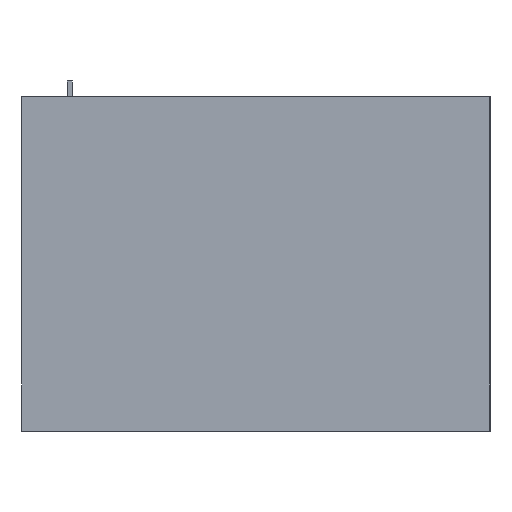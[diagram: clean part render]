
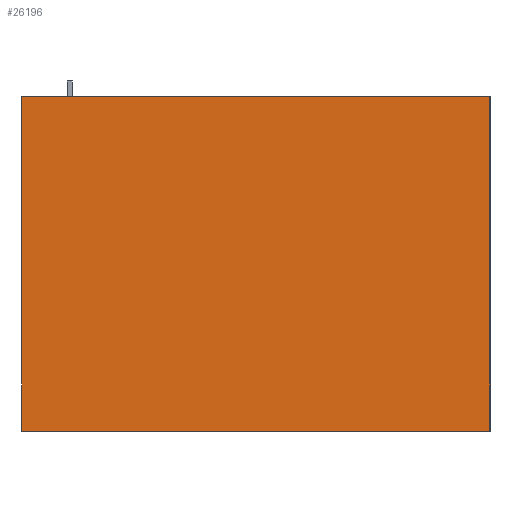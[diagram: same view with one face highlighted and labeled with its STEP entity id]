
A CAD part, left-side view. The second image highlights one B-rep face of the part: STEP entity #26196.
In plain terms, the highlighted planar face has unit normal (-1, 0, 0).
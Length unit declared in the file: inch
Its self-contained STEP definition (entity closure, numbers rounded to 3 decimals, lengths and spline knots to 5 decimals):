
#4245=FACE_OUTER_BOUND('',#5621,.T.);
#5621=EDGE_LOOP('',(#17411,#17412,#17413,#17414));
#7565=LINE('',#40286,#9607);
#7566=LINE('',#40288,#9608);
#7567=LINE('',#40290,#9609);
#7568=LINE('',#40291,#9610);
#9607=VECTOR('',#31703,0.3937);
#9608=VECTOR('',#31704,0.3937);
#9609=VECTOR('',#31705,0.3937);
#9610=VECTOR('',#31706,0.3937);
#11649=VERTEX_POINT('',#40284);
#11650=VERTEX_POINT('',#40285);
#11651=VERTEX_POINT('',#40287);
#11652=VERTEX_POINT('',#40289);
#13913=EDGE_CURVE('',#11649,#11650,#7565,.T.);
#13914=EDGE_CURVE('',#11650,#11651,#7566,.T.);
#13915=EDGE_CURVE('',#11652,#11651,#7567,.T.);
#13916=EDGE_CURVE('',#11649,#11652,#7568,.T.);
#17411=ORIENTED_EDGE('',*,*,#13913,.T.);
#17412=ORIENTED_EDGE('',*,*,#13914,.T.);
#17413=ORIENTED_EDGE('',*,*,#13915,.F.);
#17414=ORIENTED_EDGE('',*,*,#13916,.F.);
#24407=PLANE('',#28428);
#26196=ADVANCED_FACE('',(#4245),#24407,.T.);
#28428=AXIS2_PLACEMENT_3D('',#40283,#31701,#31702);
#31701=DIRECTION('center_axis',(-1.,0.,0.));
#31702=DIRECTION('ref_axis',(0.,-1.,0.));
#31703=DIRECTION('',(0.,-1.,0.));
#31704=DIRECTION('',(0.,0.,1.));
#31705=DIRECTION('',(0.,-1.,0.));
#31706=DIRECTION('',(0.,0.,1.));
#40283=CARTESIAN_POINT('Origin',(0.,35.,0.));
#40284=CARTESIAN_POINT('',(0.,35.,0.));
#40285=CARTESIAN_POINT('',(0.,0.,0.));
#40286=CARTESIAN_POINT('',(0.,35.,0.));
#40287=CARTESIAN_POINT('',(0.,0.,25.));
#40288=CARTESIAN_POINT('',(0.,0.,0.));
#40289=CARTESIAN_POINT('',(0.,35.,25.));
#40290=CARTESIAN_POINT('',(0.,35.,25.));
#40291=CARTESIAN_POINT('',(0.,35.,0.));
